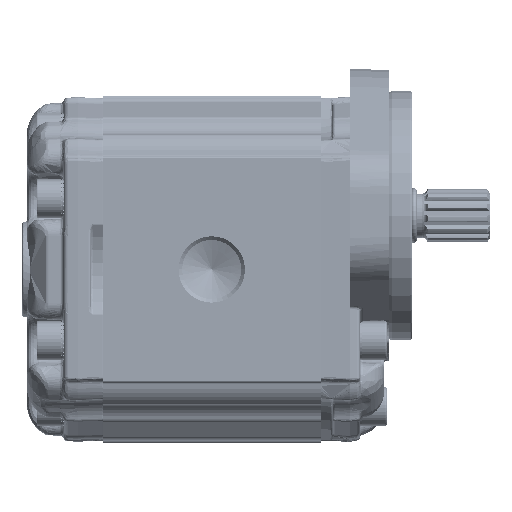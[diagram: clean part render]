
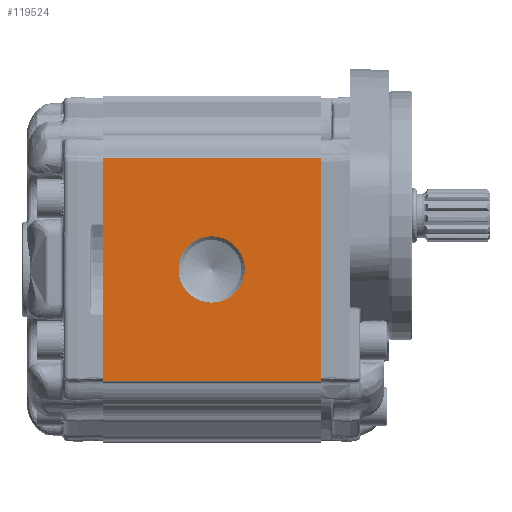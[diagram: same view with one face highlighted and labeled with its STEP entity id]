
A CAD part, left-side view. The second image highlights one B-rep face of the part: STEP entity #119524.
In plain terms, the highlighted planar face has unit normal (-1, 0, 0) as drawn and (1, 0, 0) by its records, which use the part's own axes.
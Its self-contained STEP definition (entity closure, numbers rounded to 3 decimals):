
#7405=PLANE('',#125932);
#10184=LINE('',#217628,#15003);
#10195=LINE('',#217712,#15014);
#10241=LINE('',#217862,#15060);
#10242=LINE('',#217863,#15061);
#15003=VECTOR('',#139305,1000.);
#15014=VECTOR('',#139380,1000.);
#15060=VECTOR('',#139542,1000.);
#15061=VECTOR('',#139543,1000.);
#30771=ORIENTED_EDGE('',*,*,#52047,.T.);
#30772=ORIENTED_EDGE('',*,*,#51926,.F.);
#30773=ORIENTED_EDGE('',*,*,#52048,.T.);
#30774=ORIENTED_EDGE('',*,*,#51968,.F.);
#30775=ORIENTED_EDGE('',*,*,#52049,.T.);
#51926=EDGE_CURVE('',#63446,#63447,#10184,.T.);
#51968=EDGE_CURVE('',#63488,#63489,#10195,.T.);
#52047=EDGE_CURVE('',#63533,#63533,#70231,.F.);
#52048=EDGE_CURVE('',#63446,#63489,#10241,.F.);
#52049=EDGE_CURVE('',#63488,#63447,#10242,.F.);
#63446=VERTEX_POINT('',#217627);
#63447=VERTEX_POINT('',#217629);
#63488=VERTEX_POINT('',#217713);
#63489=VERTEX_POINT('',#217714);
#63533=VERTEX_POINT('',#217861);
#70231=CIRCLE('',#125933,13.559);
#74588=EDGE_LOOP('',(#30771));
#74589=EDGE_LOOP('',(#30772,#30773,#30774,#30775));
#79737=FACE_BOUND('',#74588,.T.);
#79738=FACE_BOUND('',#74589,.T.);
#119524=ADVANCED_FACE('',(#79737,#79738),#7405,.T.);
#125932=AXIS2_PLACEMENT_3D('',#217859,#139538,#139539);
#125933=AXIS2_PLACEMENT_3D('',#217860,#139540,#139541);
#139305=DIRECTION('',(0.,0.,-1.));
#139380=DIRECTION('',(0.,0.,1.));
#139538=DIRECTION('',(1.,0.,0.));
#139539=DIRECTION('',(0.,0.,1.));
#139540=DIRECTION('',(1.,0.,0.));
#139541=DIRECTION('',(0.,0.,1.));
#139542=DIRECTION('',(0.,1.,0.));
#139543=DIRECTION('',(0.,-1.,0.));
#217627=CARTESIAN_POINT('',(57.5,89.,45.5));
#217628=CARTESIAN_POINT('',(57.5,89.,91.388));
#217629=CARTESIAN_POINT('',(57.5,89.,-45.5));
#217712=CARTESIAN_POINT('',(57.5,0.,-44.978));
#217713=CARTESIAN_POINT('',(57.5,0.,-45.5));
#217714=CARTESIAN_POINT('',(57.5,0.,45.5));
#217859=CARTESIAN_POINT('',(57.5,-140.475,91.388));
#217860=CARTESIAN_POINT('',(57.5,44.5,0.));
#217861=CARTESIAN_POINT('',(57.5,44.5,13.559));
#217862=CARTESIAN_POINT('',(57.5,-140.475,45.5));
#217863=CARTESIAN_POINT('',(57.5,-140.475,-45.5));
